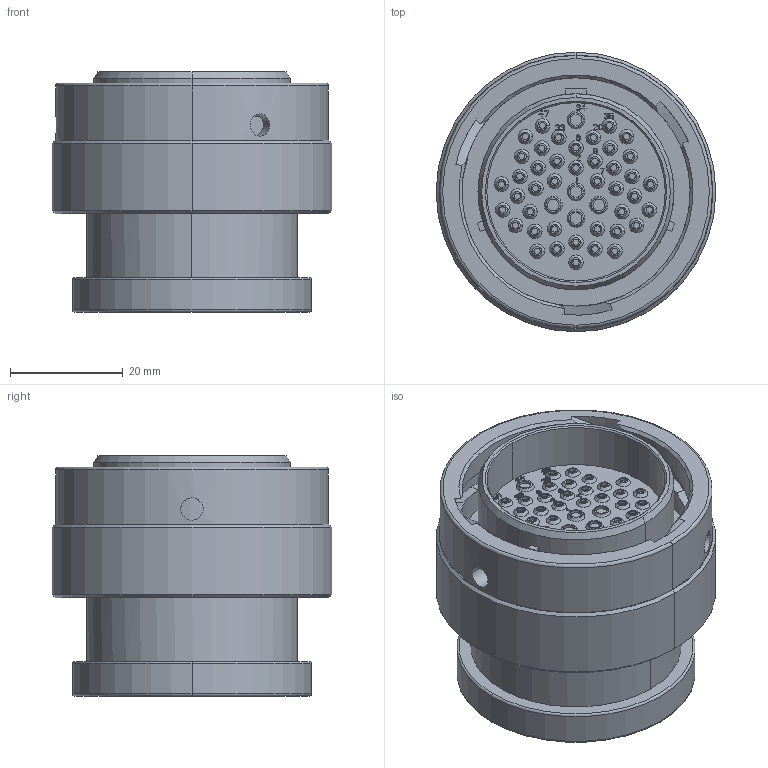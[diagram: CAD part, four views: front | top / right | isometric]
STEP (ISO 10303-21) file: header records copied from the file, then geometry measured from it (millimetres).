
FILE_DESCRIPTION((''),'2;1');
FILE_NAME('C-HDP26-24-47PE-L017','2013-07-27T',('workeradm'),('Tyco Electronics Ltd.'),'PRO/ENGINEER BY PARAMETRIC TECHNOLOGY CORPORATION, 2011490','PRO/ENGINEER BY PARAMETRIC TECHNOLOGY CORPORATION, 2011490','');
FILE_SCHEMA(('AUTOMOTIVE_DESIGN { 1 0 10303 214 1 1 1 1 }'));
Length unit declared in the file: millimetre
Products named in the file (1): C-HDP26-24-47PE-L017
Bounding box: 49.53 x 49.53 x 42.55 mm (x, y, z)
Volume: 50342.8 mm3; surface area: 16019.7 mm2
Topology: 1 solids, 1 shells, 1343 faces, 3274 edges, 2141 vertices
Faces by surface type: plane 778, cylinder 322, cone 105, torus 94, bspline 44
Entity records: 41996 total; most frequent: CARTESIAN_POINT 9385, DIRECTION 6794, ORIENTED_EDGE 6548, EDGE_CURVE 3274, AXIS2_PLACEMENT_3D 2342, VERTEX_POINT 2141, VECTOR 2110, LINE 2110
